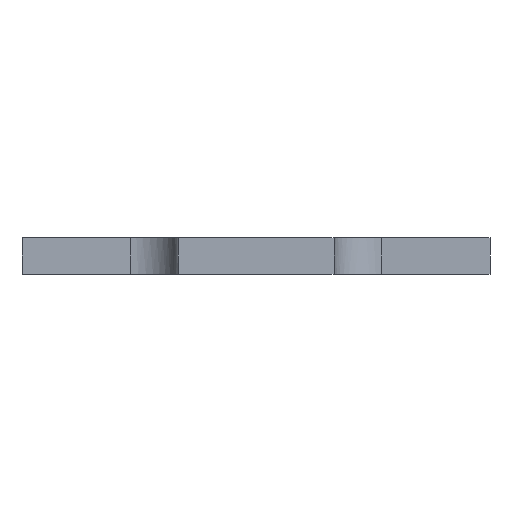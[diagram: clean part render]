
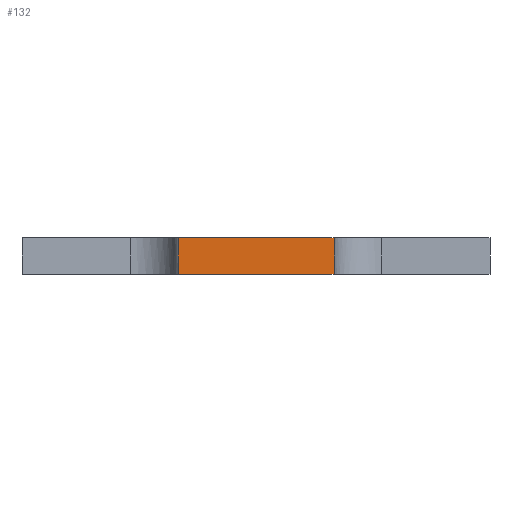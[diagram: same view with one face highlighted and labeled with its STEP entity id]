
A CAD part, front view. The second image highlights one B-rep face of the part: STEP entity #132.
In plain terms, the highlighted planar face has unit normal (0, -1, 0).
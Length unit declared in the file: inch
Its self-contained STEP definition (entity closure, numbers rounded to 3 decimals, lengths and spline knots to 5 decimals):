
#132=ADVANCED_FACE('',(#308),#309,.T.);
#308=FACE_OUTER_BOUND('',#601,.T.);
#309=PLANE('',#602);
#601=EDGE_LOOP('',(#1083,#1084,#1085,#1086));
#602=AXIS2_PLACEMENT_3D('',#1087,#1088,#1089);
#1083=ORIENTED_EDGE('',*,*,#1384,.T.);
#1084=ORIENTED_EDGE('',*,*,#1385,.F.);
#1085=ORIENTED_EDGE('',*,*,#1386,.T.);
#1086=ORIENTED_EDGE('',*,*,#1360,.T.);
#1087=CARTESIAN_POINT('',(0.81241,0.0,0.0));
#1088=DIRECTION('',(0.0,-1.0,0.0));
#1089=DIRECTION('',(1.0,0.0,0.0));
#1360=EDGE_CURVE('',#1513,#1511,#1514,.T.);
#1384=EDGE_CURVE('',#1511,#1555,#1556,.T.);
#1385=EDGE_CURVE('',#1557,#1555,#1558,.T.);
#1386=EDGE_CURVE('',#1557,#1513,#1559,.T.);
#1511=VERTEX_POINT('',#1738);
#1513=VERTEX_POINT('',#1741);
#1514=LINE('',#1742,#1743);
#1555=VERTEX_POINT('',#1814);
#1556=LINE('',#1815,#1816);
#1557=VERTEX_POINT('',#1817);
#1558=LINE('',#1818,#1819);
#1559=LINE('',#1820,#1821);
#1738=CARTESIAN_POINT('',(1.62482,0.0,0.375));
#1741=CARTESIAN_POINT('',(1.62482,0.0,0.0));
#1742=CARTESIAN_POINT('',(1.62482,0.0,0.0));
#1743=VECTOR('',#2145,1.0);
#1814=CARTESIAN_POINT('',(0.0,0.0,0.375));
#1815=CARTESIAN_POINT('',(0.0,0.0,0.375));
#1816=VECTOR('',#2158,1.0);
#1817=CARTESIAN_POINT('',(0.0,0.0,0.0));
#1818=CARTESIAN_POINT('',(0.0,0.0,0.0));
#1819=VECTOR('',#2159,1.0);
#1820=CARTESIAN_POINT('',(0.0,0.0,0.0));
#1821=VECTOR('',#2160,1.0);
#2145=DIRECTION('',(0.0,0.0,1.0));
#2158=DIRECTION('',(-1.0,-0.0,-0.0));
#2159=DIRECTION('',(0.0,0.0,1.0));
#2160=DIRECTION('',(1.0,0.0,0.0));
